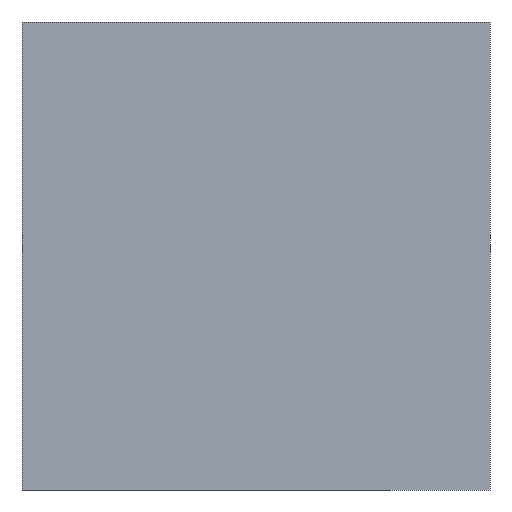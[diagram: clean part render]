
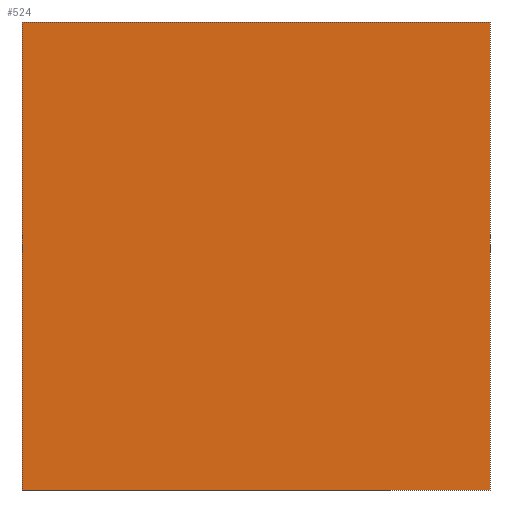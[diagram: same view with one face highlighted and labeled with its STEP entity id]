
A CAD part, left-side view. The second image highlights one B-rep face of the part: STEP entity #524.
In plain terms, the highlighted planar face has unit normal (-1, 0, 0).
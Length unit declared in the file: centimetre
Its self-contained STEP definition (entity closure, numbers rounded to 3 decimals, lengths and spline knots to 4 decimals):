
#1 = ORIENTED_EDGE ( 'NONE', *, *, #512, .F. ) ;
#4 = ORIENTED_EDGE ( 'NONE', *, *, #22, .T. ) ;
#15 = CARTESIAN_POINT ( 'NONE',  ( 0., 1000., 1000. ) ) ;
#22 = EDGE_CURVE ( 'NONE', #119, #40, #546, .T. ) ;
#33 = VERTEX_POINT ( 'NONE', #503 ) ;
#40 = VERTEX_POINT ( 'NONE', #148 ) ;
#65 = DIRECTION ( 'NONE',  ( 0., -1., 0. ) ) ;
#77 = CARTESIAN_POINT ( 'NONE',  ( 0., 1000., 0. ) ) ;
#78 = EDGE_LOOP ( 'NONE', ( #205, #1, #223, #4 ) ) ;
#95 = LINE ( 'NONE', #267, #192 ) ;
#109 = DIRECTION ( 'NONE',  ( 0., 0., -1. ) ) ;
#114 = EDGE_CURVE ( 'NONE', #119, #484, #542, .T. ) ;
#119 = VERTEX_POINT ( 'NONE', #319 ) ;
#140 = PLANE ( 'NONE',  #358 ) ;
#148 = CARTESIAN_POINT ( 'NONE',  ( 0., 1000., 0. ) ) ;
#163 = VECTOR ( 'NONE', #291, 100. ) ;
#179 = DIRECTION ( 'NONE',  ( 0., 0., -1. ) ) ;
#192 = VECTOR ( 'NONE', #179, 100. ) ;
#205 = ORIENTED_EDGE ( 'NONE', *, *, #338, .T. ) ;
#223 = ORIENTED_EDGE ( 'NONE', *, *, #114, .F. ) ;
#258 = VECTOR ( 'NONE', #65, 100. ) ;
#267 = CARTESIAN_POINT ( 'NONE',  ( 0., 0., 1000. ) ) ;
#291 = DIRECTION ( 'NONE',  ( 0., -1., 0. ) ) ;
#319 = CARTESIAN_POINT ( 'NONE',  ( 0., 1000., 1000. ) ) ;
#338 = EDGE_CURVE ( 'NONE', #40, #33, #521, .T. ) ;
#358 = AXIS2_PLACEMENT_3D ( 'NONE', #498, #406, #109 ) ;
#406 = DIRECTION ( 'NONE',  ( 1., 0., 0. ) ) ;
#410 = DIRECTION ( 'NONE',  ( 0., 0., -1. ) ) ;
#424 = VECTOR ( 'NONE', #410, 100. ) ;
#448 = CARTESIAN_POINT ( 'NONE',  ( 0., 0., 1000. ) ) ;
#458 = CARTESIAN_POINT ( 'NONE',  ( 0., 1000., 1000. ) ) ;
#484 = VERTEX_POINT ( 'NONE', #448 ) ;
#498 = CARTESIAN_POINT ( 'NONE',  ( 0., 1000., 1000. ) ) ;
#503 = CARTESIAN_POINT ( 'NONE',  ( 0., 0., 0. ) ) ;
#512 = EDGE_CURVE ( 'NONE', #484, #33, #95, .T. ) ;
#521 = LINE ( 'NONE', #77, #163 ) ;
#524 = ADVANCED_FACE ( 'NONE', ( #537 ), #140, .F. ) ;
#537 = FACE_OUTER_BOUND ( 'NONE', #78, .T. ) ;
#542 = LINE ( 'NONE', #458, #258 ) ;
#546 = LINE ( 'NONE', #15, #424 ) ;
